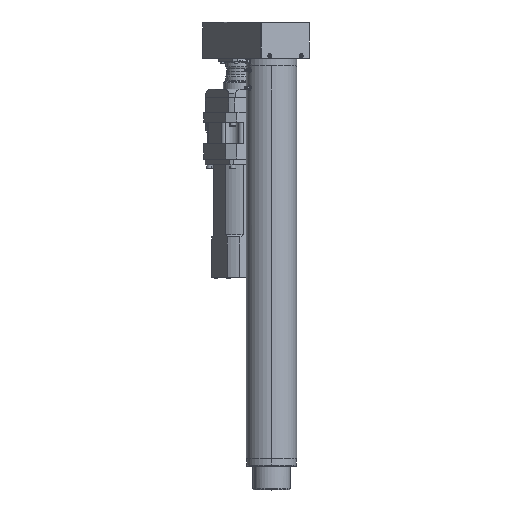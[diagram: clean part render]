
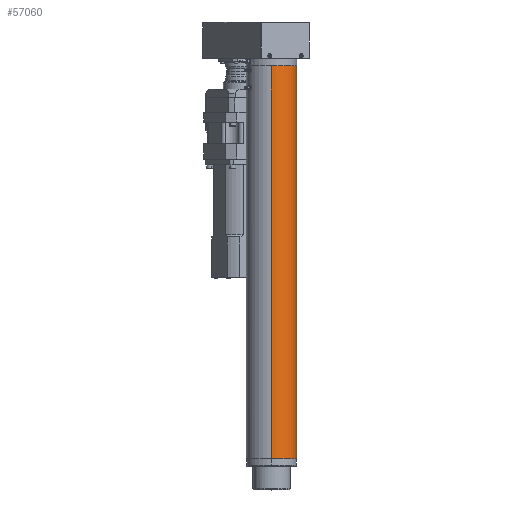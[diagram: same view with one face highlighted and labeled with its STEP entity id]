
A CAD part, top view. The second image highlights one B-rep face of the part: STEP entity #57060.
In plain terms, the highlighted cylindrical face has radius 64.5 mm (diameter 129 mm), a partial arc.
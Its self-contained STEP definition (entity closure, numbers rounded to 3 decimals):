
#2382 = LINE ( 'NONE', #23489, #46796 ) ;
#5282 = CARTESIAN_POINT ( 'NONE',  ( 71.219, 822.121, 97.194 ) ) ;
#6267 = DIRECTION ( 'NONE',  ( 0., 0., -1. ) ) ;
#7770 = AXIS2_PLACEMENT_3D ( 'NONE', #13712, #10038, #44480 ) ;
#9118 = AXIS2_PLACEMENT_3D ( 'NONE', #30759, #50258, #6267 ) ;
#9487 = VERTEX_POINT ( 'NONE', #52343 ) ;
#10038 = DIRECTION ( 'NONE',  ( 0., -1., 0. ) ) ;
#11594 = VERTEX_POINT ( 'NONE', #44507 ) ;
#12995 = EDGE_CURVE ( 'NONE', #28131, #41003, #59687, .T. ) ;
#13712 = CARTESIAN_POINT ( 'NONE',  ( 71.219, -198.379, 97.194 ) ) ;
#13775 = ORIENTED_EDGE ( 'NONE', *, *, #12995, .T. ) ;
#18157 = EDGE_CURVE ( 'NONE', #9487, #41003, #55612, .T. ) ;
#20204 = ORIENTED_EDGE ( 'NONE', *, *, #39048, .F. ) ;
#21316 = VECTOR ( 'NONE', #24931, 1000. ) ;
#23159 = DIRECTION ( 'NONE',  ( 0., -1., 0. ) ) ;
#23489 = CARTESIAN_POINT ( 'NONE',  ( 71.219, -198.379, 32.694 ) ) ;
#24001 = EDGE_CURVE ( 'NONE', #11594, #28131, #27929, .T. ) ;
#24931 = DIRECTION ( 'NONE',  ( 0., -1., 0. ) ) ;
#26073 = CARTESIAN_POINT ( 'NONE',  ( 71.219, 822.121, 161.694 ) ) ;
#26658 = CARTESIAN_POINT ( 'NONE',  ( 71.219, -178.379, 161.694 ) ) ;
#27929 = CIRCLE ( 'NONE', #46922, 64.5 ) ;
#28131 = VERTEX_POINT ( 'NONE', #26073 ) ;
#29558 = CARTESIAN_POINT ( 'NONE',  ( 71.219, -198.379, 161.694 ) ) ;
#30037 = EDGE_LOOP ( 'NONE', ( #38516, #13775, #46929, #20204 ) ) ;
#30759 = CARTESIAN_POINT ( 'NONE',  ( 71.219, -178.379, 97.194 ) ) ;
#38516 = ORIENTED_EDGE ( 'NONE', *, *, #24001, .T. ) ;
#39048 = EDGE_CURVE ( 'NONE', #11594, #9487, #2382, .T. ) ;
#40977 = DIRECTION ( 'NONE',  ( 0., 0., -1. ) ) ;
#41003 = VERTEX_POINT ( 'NONE', #26658 ) ;
#44480 = DIRECTION ( 'NONE',  ( 0., 0., -1. ) ) ;
#44507 = CARTESIAN_POINT ( 'NONE',  ( 71.219, 822.121, 32.694 ) ) ;
#46796 = VECTOR ( 'NONE', #23159, 1000. ) ;
#46922 = AXIS2_PLACEMENT_3D ( 'NONE', #5282, #61527, #40977 ) ;
#46929 = ORIENTED_EDGE ( 'NONE', *, *, #18157, .F. ) ;
#48123 = CYLINDRICAL_SURFACE ( 'NONE', #7770, 64.5 ) ;
#50258 = DIRECTION ( 'NONE',  ( 0., -1., 0. ) ) ;
#52343 = CARTESIAN_POINT ( 'NONE',  ( 71.219, -178.379, 32.694 ) ) ;
#52763 = FACE_OUTER_BOUND ( 'NONE', #30037, .T. ) ;
#55612 = CIRCLE ( 'NONE', #9118, 64.5 ) ;
#57060 = ADVANCED_FACE ( 'NONE', ( #52763 ), #48123, .T. ) ;
#59687 = LINE ( 'NONE', #29558, #21316 ) ;
#61527 = DIRECTION ( 'NONE',  ( 0., -1., 0. ) ) ;
